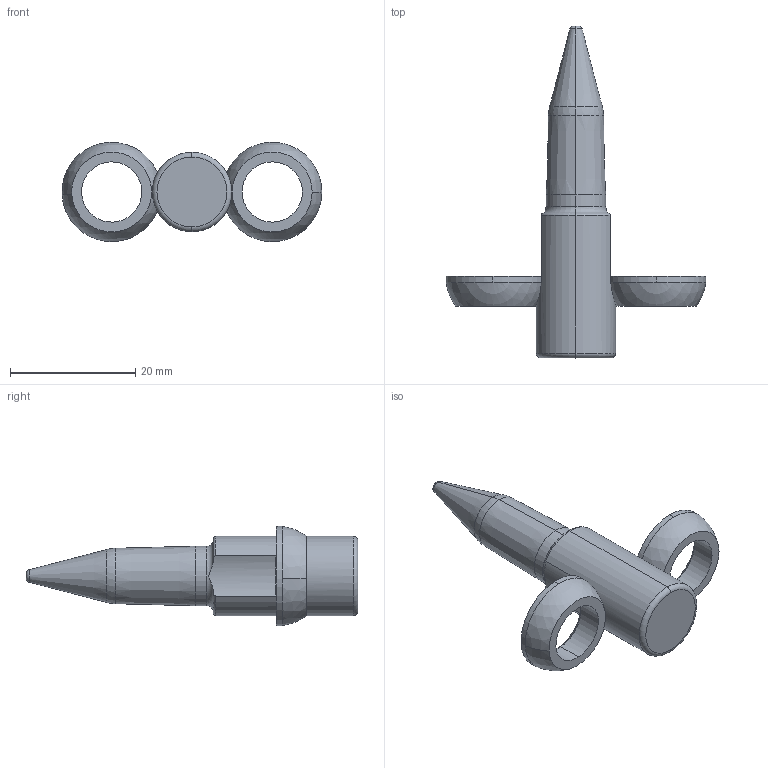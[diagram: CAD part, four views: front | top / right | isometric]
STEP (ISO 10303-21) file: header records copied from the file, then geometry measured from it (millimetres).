
FILE_DESCRIPTION (( 'STEP AP214' ), '1' );
FILE_NAME ('PA-T-.375-.075-0.5-3-A-F2.STEP', '2019-05-08T17:33:46', ( '' ), ( '' ), 'SwSTEP 2.0', 'SolidWorks 2017', '' );
FILE_SCHEMA (( 'AUTOMOTIVE_DESIGN' ));
Length unit declared in the file: inch
Products named in the file (3): SLPilot-PA-T-E_PA-T-.375-.075-0.5-3-A-F2; SLRadiusWasher_RadiusWasher-E; PA-T-.375-.075-0.5-3-A-F2
Assembly tree (3 placements, depth 2):
  PA-T-.375-.075-0.5-3-A-F2
    SLPilot-PA-T-E_PA-T-.375-.075-0.5-3-A-F2
    SLRadiusWasher_RadiusWasher-E  x2
Bounding box: 41.52 x 53.04 x 15.88 mm (x, y, z)
Volume: 5159.6 mm3; surface area: 2871.8 mm2
Topology: 3 solids, 3 shells, 49 faces, 112 edges, 69 vertices
Faces by surface type: cylinder 14, torus 11, sphere 8, cone 8, plane 8
Entity records: 1372 total; most frequent: CARTESIAN_POINT 320, DIRECTION 232, ORIENTED_EDGE 180, AXIS2_PLACEMENT_3D 107, EDGE_CURVE 90, CIRCLE 62, VERTEX_POINT 55, EDGE_LOOP 41
